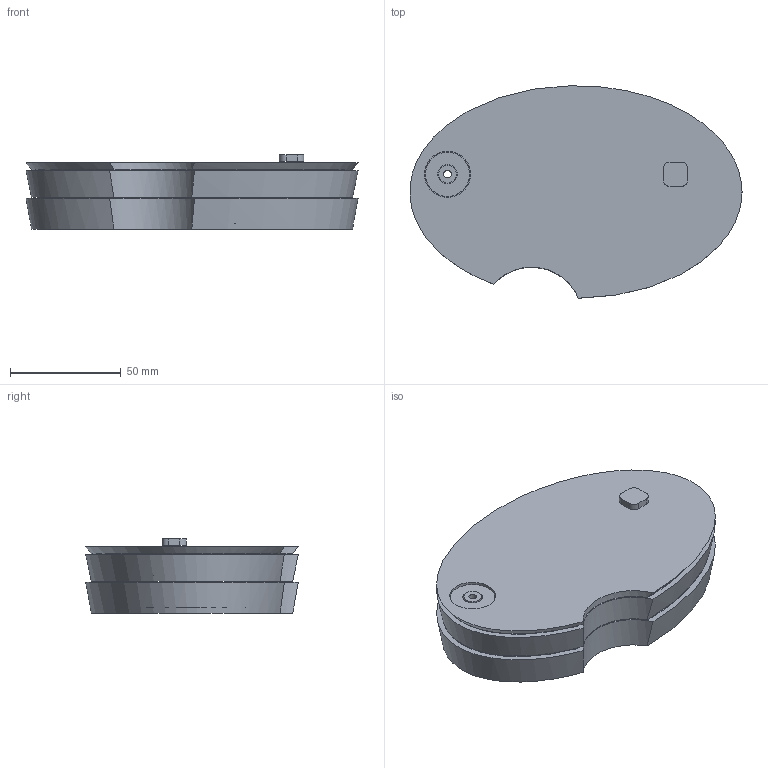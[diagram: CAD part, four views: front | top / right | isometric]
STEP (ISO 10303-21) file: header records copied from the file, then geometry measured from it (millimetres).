
FILE_DESCRIPTION(('Open CASCADE Model'),'2;1');
FILE_NAME('Open CASCADE Shape Model','2026-09-13T15:32:43',('Author'),( 'Open CASCADE'),'Open CASCADE STEP processor 7.9','build123d', 'Unknown');
FILE_SCHEMA(('AUTOMOTIVE_DESIGN { 1 0 10303 214 1 1 1 1 }'));
Length unit declared in the file: millimetre
Products named in the file (5): COMPOUND; SOLID
Assembly tree (4 placements, depth 2):
  COMPOUND
    SOLID
    SOLID
    SOLID
    SOLID
Bounding box: 149.95 x 95.96 x 33.6 mm (x, y, z)
Volume: 107886.3 mm3; surface area: 86885.2 mm2
Topology: 4 solids, 4 shells, 247 faces, 695 edges, 466 vertices
Faces by surface type: cylinder 214, plane 28, bspline 3, extrusion 2
Full cylindrical faces by diameter (mm): 3.4 x1, 4.4 x1, 4.8 x1, 5.6 x3, 8 x1, 8.8 x1, 10 x2, 20 x2, 20.8 x1
Entity records: 18328 total; most frequent: CARTESIAN_POINT 4634, DIRECTION 2585, ORIENTED_EDGE 1390, PCURVE 1390, DEFINITIONAL_REPRESENTATION 1390, CIRCLE 848, VECTOR 763, LINE 761
